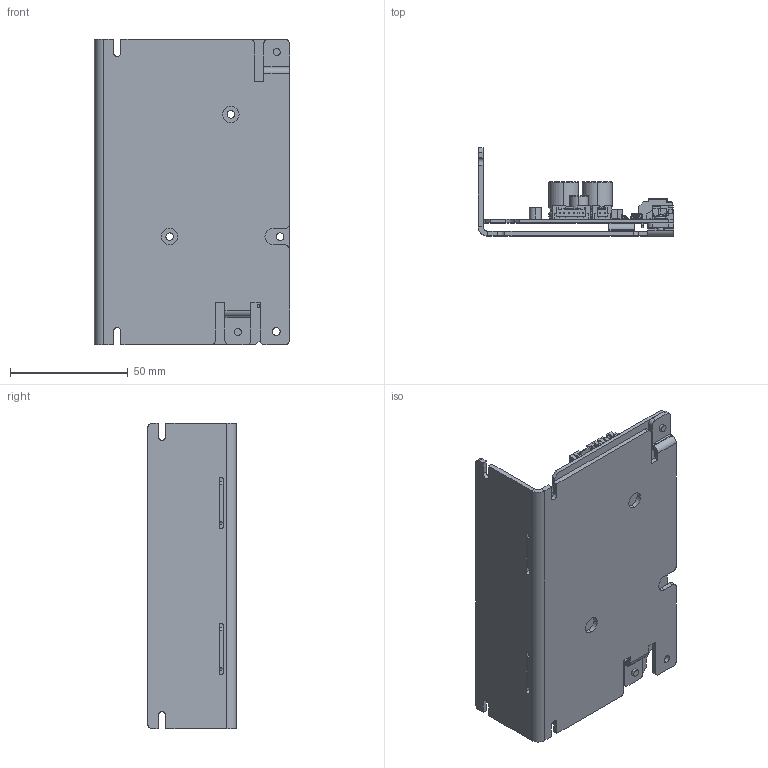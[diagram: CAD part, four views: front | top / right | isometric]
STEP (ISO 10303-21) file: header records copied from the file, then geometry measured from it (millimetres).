
FILE_DESCRIPTION (( 'STEP AP214' ), '1' );
FILE_NAME ('PDBA-200F.STEP', '2022-01-18T23:48:55', ( '' ), ( '' ), 'SwSTEP 2.0', 'SolidWorks 2018', '' );
FILE_SCHEMA (( 'AUTOMOTIVE_DESIGN' ));
Length unit declared in the file: millimetre
Products named in the file (27): XE-2021-0182-00_プリント基板; VR1、2 ST-42ETA10_(100); _ST-42EA_terminal_2.stp; _ST-42EA_terminal.stp; CN4 SM06B-PASS-TB; CN2 SM12B-GHS-TB; LEDモック; _CHP-08-J-Upper-body.stp; BM06B-GHS-TBT; PDBA-200F; CN6、7 SM03B-PASS-TB; コンデンサ小; _ST-42EA10X(100)_body.stp; _ST-42-dial8.stp; _ST-42EA_terminal_1.stp; CN1 DF63M-2P-3.96DS; 基盤Assy; コンデンサ_16mm; VR1、2 ST-42ETA10_(100).stp; XE-2021-0323-00_放熱板; SW1 CHP-080TA; MISUMI_BKJ3-5; 支柱_仮; SW1 CHP-080TA.stp; _CHP-knobUpper.stp; CN5 SM02B-PASS-TB; CN8 S2B-XH-A
Assembly tree (39 placements, depth 5):
  PDBA-200F
    基盤Assy
      XE-2021-0182-00_プリント基板
      CN1 DF63M-2P-3.96DS
      CN2 SM12B-GHS-TB
      CN4 SM06B-PASS-TB
      CN5 SM02B-PASS-TB
      CN6、7 SM03B-PASS-TB
      CN8 S2B-XH-A
      SW1 CHP-080TA
        SW1 CHP-080TA.stp
          _CHP-08-J-Upper-body.stp
          _CHP-knobUpper.stp  x8
      VR1、2 ST-42ETA10_(100)  x2
        VR1、2 ST-42ETA10_(100).stp
          _ST-42EA10X(100)_body.stp
          _ST-42-dial8.stp
          _ST-42EA_terminal_1.stp
          _ST-42EA_terminal.stp
          _ST-42EA_terminal_2.stp
      支柱_仮  x3
      コンデンサ_16mm  x2
      BM06B-GHS-TBT
      コンデンサ小
      LEDモック  x2
    XE-2021-0323-00_放熱板
    MISUMI_BKJ3-5  x2
Bounding box: 83 x 37.5 x 130 mm (x, y, z)
Volume: 52618.2 mm3; surface area: 59902.2 mm2
Topology: 38 solids, 38 shells, 2329 faces, 6279 edges, 4068 vertices
Faces by surface type: plane 1676, cylinder 561, torus 56, sphere 22, cone 14
Entity records: 66376 total; most frequent: CARTESIAN_POINT 10503, ORIENTED_EDGE 10054, DIRECTION 9594, EDGE_CURVE 5027, LINE 4162, VECTOR 4162, VERTEX_POINT 3265, AXIS2_PLACEMENT_3D 2716
